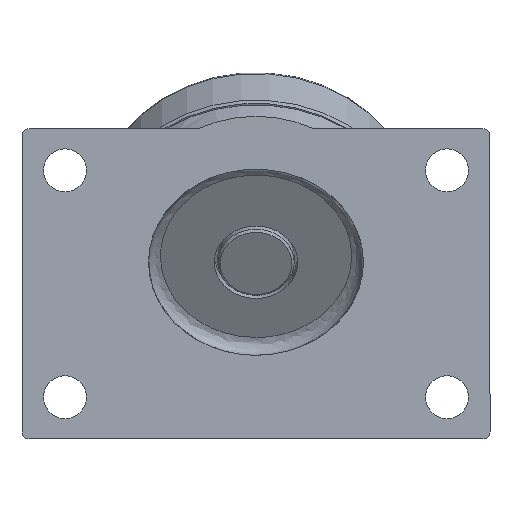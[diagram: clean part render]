
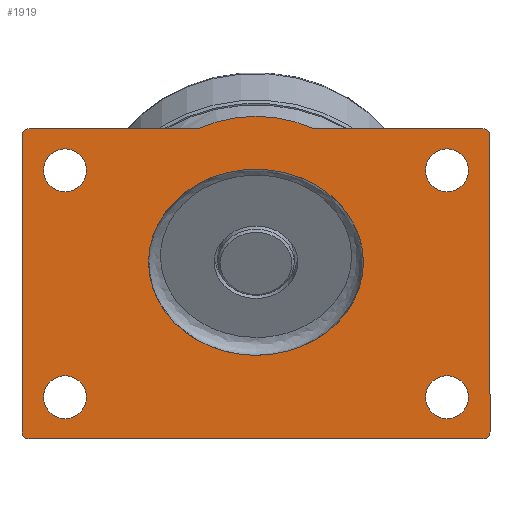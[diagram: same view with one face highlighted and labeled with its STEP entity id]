
A CAD part, front view. The second image highlights one B-rep face of the part: STEP entity #1919.
In plain terms, the highlighted planar face has unit normal (0, -1, 0) as drawn and (0, 0, -1) by its records, which use the part's own axes.
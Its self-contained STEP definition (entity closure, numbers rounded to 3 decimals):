
#36=ELLIPSE('',#2165,45.,38.971);
#44=ELLIPSE('',#2219,77.942,67.5);
#231=FACE_BOUND('',#503,.T.);
#232=FACE_BOUND('',#504,.T.);
#233=FACE_BOUND('',#505,.T.);
#234=FACE_BOUND('',#506,.T.);
#235=FACE_BOUND('',#507,.T.);
#265=PLANE('',#2216);
#356=FACE_OUTER_BOUND('',#502,.T.);
#502=EDGE_LOOP('',(#1579,#1580,#1581,#1582,#1583,#1584,#1585,#1586,#1587,
#1588));
#503=EDGE_LOOP('',(#1589));
#504=EDGE_LOOP('',(#1590));
#505=EDGE_LOOP('',(#1591));
#506=EDGE_LOOP('',(#1592));
#507=EDGE_LOOP('',(#1593));
#607=LINE('',#3627,#686);
#608=LINE('',#3631,#687);
#609=LINE('',#3635,#688);
#610=LINE('',#3639,#689);
#611=LINE('',#3642,#690);
#686=VECTOR('',#2704,124.);
#687=VECTOR('',#2707,70.869);
#688=VECTOR('',#2710,70.869);
#689=VECTOR('',#2713,124.);
#690=VECTOR('',#2716,190.);
#823=CIRCLE('',#2217,3.);
#824=CIRCLE('',#2218,3.);
#825=CIRCLE('',#2220,3.);
#826=CIRCLE('',#2221,3.);
#827=CIRCLE('',#2222,9.);
#828=CIRCLE('',#2223,9.);
#829=CIRCLE('',#2224,9.);
#830=CIRCLE('',#2225,9.);
#929=VERTEX_POINT('',#3355);
#971=VERTEX_POINT('',#3623);
#972=VERTEX_POINT('',#3624);
#973=VERTEX_POINT('',#3626);
#974=VERTEX_POINT('',#3628);
#975=VERTEX_POINT('',#3630);
#976=VERTEX_POINT('',#3632);
#977=VERTEX_POINT('',#3634);
#978=VERTEX_POINT('',#3636);
#979=VERTEX_POINT('',#3638);
#980=VERTEX_POINT('',#3640);
#981=VERTEX_POINT('',#3643);
#982=VERTEX_POINT('',#3645);
#983=VERTEX_POINT('',#3647);
#984=VERTEX_POINT('',#3649);
#1127=EDGE_CURVE('',#929,#929,#36,.T.);
#1187=EDGE_CURVE('',#971,#972,#823,.T.);
#1188=EDGE_CURVE('',#971,#973,#607,.T.);
#1189=EDGE_CURVE('',#974,#973,#824,.T.);
#1190=EDGE_CURVE('',#974,#975,#608,.T.);
#1191=EDGE_CURVE('',#976,#975,#44,.T.);
#1192=EDGE_CURVE('',#976,#977,#609,.T.);
#1193=EDGE_CURVE('',#978,#977,#825,.T.);
#1194=EDGE_CURVE('',#978,#979,#610,.T.);
#1195=EDGE_CURVE('',#980,#979,#826,.T.);
#1196=EDGE_CURVE('',#980,#972,#611,.T.);
#1197=EDGE_CURVE('',#981,#981,#827,.T.);
#1198=EDGE_CURVE('',#982,#982,#828,.T.);
#1199=EDGE_CURVE('',#983,#983,#829,.T.);
#1200=EDGE_CURVE('',#984,#984,#830,.T.);
#1579=ORIENTED_EDGE('',*,*,#1187,.F.);
#1580=ORIENTED_EDGE('',*,*,#1188,.T.);
#1581=ORIENTED_EDGE('',*,*,#1189,.F.);
#1582=ORIENTED_EDGE('',*,*,#1190,.T.);
#1583=ORIENTED_EDGE('',*,*,#1191,.F.);
#1584=ORIENTED_EDGE('',*,*,#1192,.T.);
#1585=ORIENTED_EDGE('',*,*,#1193,.F.);
#1586=ORIENTED_EDGE('',*,*,#1194,.T.);
#1587=ORIENTED_EDGE('',*,*,#1195,.F.);
#1588=ORIENTED_EDGE('',*,*,#1196,.T.);
#1589=ORIENTED_EDGE('',*,*,#1127,.T.);
#1590=ORIENTED_EDGE('',*,*,#1197,.T.);
#1591=ORIENTED_EDGE('',*,*,#1198,.T.);
#1592=ORIENTED_EDGE('',*,*,#1199,.T.);
#1593=ORIENTED_EDGE('',*,*,#1200,.T.);
#1919=ADVANCED_FACE('',(#356,#231,#232,#233,#234,#235),#265,.T.);
#2165=AXIS2_PLACEMENT_3D('',#3356,#2581,#2582);
#2216=AXIS2_PLACEMENT_3D('',#3622,#2700,#2701);
#2217=AXIS2_PLACEMENT_3D('',#3625,#2702,#2703);
#2218=AXIS2_PLACEMENT_3D('',#3629,#2705,#2706);
#2219=AXIS2_PLACEMENT_3D('',#3633,#2708,#2709);
#2220=AXIS2_PLACEMENT_3D('',#3637,#2711,#2712);
#2221=AXIS2_PLACEMENT_3D('',#3641,#2714,#2715);
#2222=AXIS2_PLACEMENT_3D('',#3644,#2717,#2718);
#2223=AXIS2_PLACEMENT_3D('',#3646,#2719,#2720);
#2224=AXIS2_PLACEMENT_3D('',#3648,#2721,#2722);
#2225=AXIS2_PLACEMENT_3D('',#3650,#2723,#2724);
#2581=DIRECTION('center_axis',(0.,0.,1.));
#2582=DIRECTION('ref_axis',(-1.,0.,0.));
#2700=DIRECTION('center_axis',(0.,0.,-1.));
#2701=DIRECTION('ref_axis',(0.,1.,0.));
#2702=DIRECTION('center_axis',(0.,0.,1.));
#2703=DIRECTION('ref_axis',(0.707,0.707,0.));
#2704=DIRECTION('',(0.,-1.,0.));
#2705=DIRECTION('center_axis',(0.,0.,1.));
#2706=DIRECTION('ref_axis',(0.707,-0.707,0.));
#2707=DIRECTION('',(-1.,0.,0.));
#2708=DIRECTION('center_axis',(0.,0.,
1.));
#2709=DIRECTION('ref_axis',(0.,1.,0.));
#2710=DIRECTION('',(-1.,0.,0.));
#2711=DIRECTION('center_axis',(0.,0.,1.));
#2712=DIRECTION('ref_axis',(-0.707,-0.707,0.));
#2713=DIRECTION('',(0.,1.,0.));
#2714=DIRECTION('center_axis',(0.,0.,1.));
#2715=DIRECTION('ref_axis',(-0.707,0.707,0.));
#2716=DIRECTION('',(1.,0.,0.));
#2717=DIRECTION('center_axis',(0.,0.,1.));
#2718=DIRECTION('ref_axis',(1.,0.,0.));
#2719=DIRECTION('center_axis',(0.,0.,1.));
#2720=DIRECTION('ref_axis',(1.,0.,0.));
#2721=DIRECTION('center_axis',(0.,0.,1.));
#2722=DIRECTION('ref_axis',(1.,0.,0.));
#2723=DIRECTION('center_axis',(0.,0.,1.));
#2724=DIRECTION('ref_axis',(1.,0.,0.));
#3355=CARTESIAN_POINT('',(45.,14.,0.));
#3356=CARTESIAN_POINT('Origin',(0.,14.,0.));
#3622=CARTESIAN_POINT('Origin',(0.,23.01,0.));
#3623=CARTESIAN_POINT('',(98.,85.01,0.));
#3624=CARTESIAN_POINT('',(95.,88.01,0.));
#3625=CARTESIAN_POINT('Origin',(95.,85.01,0.));
#3626=CARTESIAN_POINT('',(98.,-38.99,0.));
#3627=CARTESIAN_POINT('',(98.,88.01,0.));
#3628=CARTESIAN_POINT('',(95.,-41.99,0.));
#3629=CARTESIAN_POINT('Origin',(95.,-38.99,0.));
#3630=CARTESIAN_POINT('',(24.131,-41.99,0.));
#3631=CARTESIAN_POINT('',(98.,-41.99,0.));
#3632=CARTESIAN_POINT('',(-24.131,-41.99,0.));
#3633=CARTESIAN_POINT('Origin',(0.,30.802,0.));
#3634=CARTESIAN_POINT('',(-95.,-41.99,0.));
#3635=CARTESIAN_POINT('',(98.,-41.99,0.));
#3636=CARTESIAN_POINT('',(-98.,-38.99,0.));
#3637=CARTESIAN_POINT('Origin',(-95.,-38.99,0.));
#3638=CARTESIAN_POINT('',(-98.,85.01,0.));
#3639=CARTESIAN_POINT('',(-98.,-41.99,0.));
#3640=CARTESIAN_POINT('',(-95.,88.01,0.));
#3641=CARTESIAN_POINT('Origin',(-95.,85.01,0.));
#3642=CARTESIAN_POINT('',(-98.,88.01,0.));
#3643=CARTESIAN_POINT('',(-89.,-24.49,0.));
#3644=CARTESIAN_POINT('Origin',(-80.,-24.49,0.));
#3645=CARTESIAN_POINT('',(71.,70.51,0.));
#3646=CARTESIAN_POINT('Origin',(80.,70.51,0.));
#3647=CARTESIAN_POINT('',(-89.,70.51,0.));
#3648=CARTESIAN_POINT('Origin',(-80.,70.51,0.));
#3649=CARTESIAN_POINT('',(71.,-24.49,0.));
#3650=CARTESIAN_POINT('Origin',(80.,-24.49,0.));
